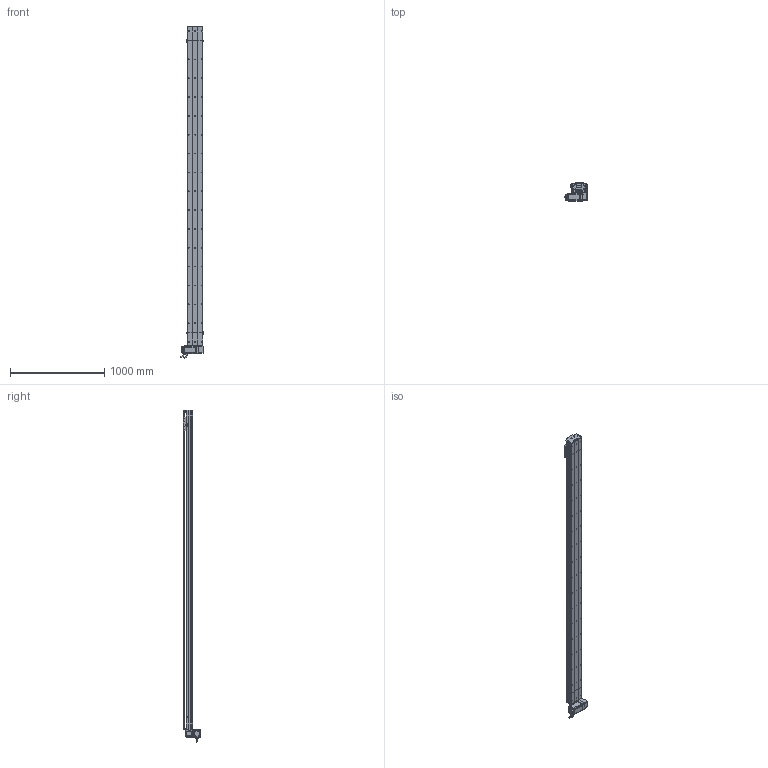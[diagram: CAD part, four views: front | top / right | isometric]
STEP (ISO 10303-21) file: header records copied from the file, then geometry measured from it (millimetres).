
FILE_DESCRIPTION (( 'STEP AP214' ), '1' );
FILE_NAME ('D17 TBH LU S3100.STEP', '2010-06-30T09:06:20', ( 'Christophe Gaillard' ), ( 'SGA' ), 'SwSTEP 2.0', 'SolidWorks 2010', '' );
FILE_SCHEMA (( 'AUTOMOTIVE_DESIGN' ));
Length unit declared in the file: millimetre
Products named in the file (40): plaque de  bout tail D17B_Default; Conecteur_Default; Chariot D17; Conecteur2_Default; codeur 90BLDC125-640; corps 90BLDC125A-640; couroie head D17_Default; cache arbre D17_Default; poulie head_Default; avant 90BLDC125A-640; Moteur motionking 90BLDC125A-640; Renvoi LU_Default; vis M5 L5_Default; cache D17_Default; Arbre+rail head D17B; plaque de  bout head D17B LU_Default; vis M5 L70_Default; couvercle D17B head_Default; Couroie tail D17B_Default; course 3100 D17B_Default; Couroie+ rail D17 Course 3100 ; guide D17; Rail D17B; Head LU D17B_Default; corpl head D17 _Default; couvercle D17B_Default; vis M5 L25_Default; chariot D17S_Default; Vis M5 L16-2_Default; Plaque racord D17_Default; Tail D17B+100_Default; vis M5 L12_Default; corp tail D17B+100_Default; tete d''axe poulie D17B; D17 TBH LU S3100; vis M5 L8 90°_Default; corp D17B 3100_Default; couvercle D17B course L3100_Default; vis M5 L16_Default; poulie tail_Default
Assembly tree (70 placements, depth 4):
  D17 TBH LU S3100
    Tail D17B+100_Default
      Couroie tail D17B_Default
      vis M5 L8 90°_Default  x2
      tete d''axe poulie D17B
      couvercle D17B_Default
      vis M5 L25_Default  x2
      plaque de  bout tail D17B_Default
      vis M5 L12_Default  x4
      poulie tail_Default
      corp tail D17B+100_Default
      Rail D17B
    chariot D17S_Default
      Chariot D17
      vis M5 L12_Default  x4
      guide D17  x2
    Head LU D17B_Default
      vis M5 L5_Default  x4
      Plaque racord D17_Default
      vis M5 L12_Default  x8
      vis M5 L70_Default  x4
      couroie head D17_Default
      Renvoi LU_Default
      vis M5 L25_Default  x2
      Arbre+rail head D17B
      cache arbre D17_Default
      poulie head_Default
      Vis M5 L16-2_Default  x4
      vis M5 L16_Default  x2
      corpl head D17 _Default
      cache D17_Default  x2
      couvercle D17B head_Default
      plaque de  bout head D17B LU_Default
      Moteur motionking 90BLDC125A-640
        Conecteur_Default
        codeur 90BLDC125-640
        corps 90BLDC125A-640
        Conecteur2_Default
        avant 90BLDC125A-640
    course 3100 D17B_Default
      couvercle D17B course L3100_Default
      Couroie+ rail D17 Course 3100 
      corp D17B 3100_Default
Bounding box: 245.2 x 188.65 x 3523.95 mm (x, y, z)
Volume: 20010495.7 mm3; surface area: 5838262 mm2
Topology: 94 solids, 94 shells, 2789 faces, 7147 edges, 4598 vertices
Faces by surface type: plane 1611, cylinder 865, bspline 136, cone 88, torus 85, sphere 4
Entity records: 88498 total; most frequent: CARTESIAN_POINT 25879, ORIENTED_EDGE 11066, DIRECTION 10470, EDGE_CURVE 5533, VERTEX_POINT 3622, VECTOR 3584, LINE 3584, AXIS2_PLACEMENT_3D 3443
